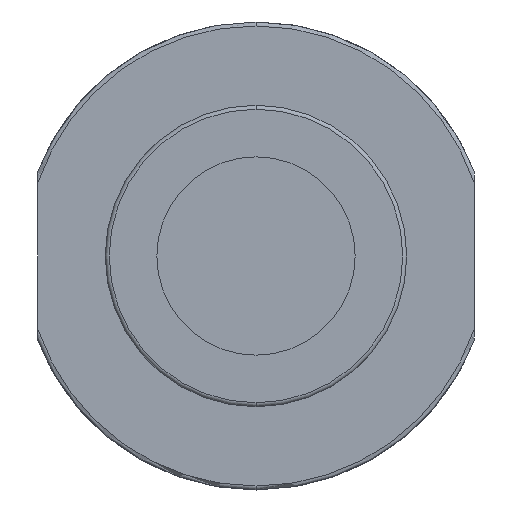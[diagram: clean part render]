
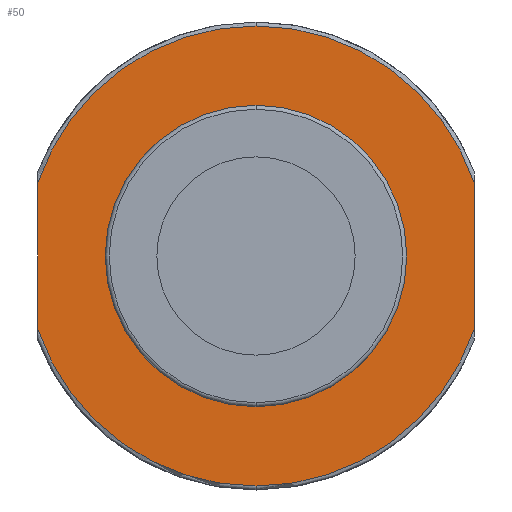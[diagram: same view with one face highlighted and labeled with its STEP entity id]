
A CAD part, left-side view. The second image highlights one B-rep face of the part: STEP entity #50.
In plain terms, the highlighted planar face has unit normal (-1, 0, 0).
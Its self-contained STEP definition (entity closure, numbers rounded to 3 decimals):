
#27 = DIRECTION ( 'NONE',  ( 0., 1., 0. ) ) ;
#50 = ADVANCED_FACE ( 'NONE', ( #857, #1179 ), #1817, .T. ) ;
#110 = CIRCLE ( 'NONE', #1399, 29. ) ;
#111 = AXIS2_PLACEMENT_3D ( 'NONE', #1345, #1472, #1102 ) ;
#137 = DIRECTION ( 'NONE',  ( 0., 0., -1. ) ) ;
#268 = DIRECTION ( 'NONE',  ( 0., 1., 0. ) ) ;
#277 = AXIS2_PLACEMENT_3D ( 'NONE', #972, #400, #541 ) ;
#348 = DIRECTION ( 'NONE',  ( 0., 1., 0. ) ) ;
#357 = ORIENTED_EDGE ( 'NONE', *, *, #1704, .T. ) ;
#384 = CARTESIAN_POINT ( 'NONE',  ( 40., 27.5, 0. ) ) ;
#387 = CARTESIAN_POINT ( 'NONE',  ( 40., 27.5, -9.206 ) ) ;
#396 = CARTESIAN_POINT ( 'NONE',  ( 40., -19., 0. ) ) ;
#400 = DIRECTION ( 'NONE',  ( -1., 0., 0. ) ) ;
#407 = DIRECTION ( 'NONE',  ( 1., 0., 0. ) ) ;
#438 = CARTESIAN_POINT ( 'NONE',  ( 40., -27.5, -9.206 ) ) ;
#449 = VERTEX_POINT ( 'NONE', #1657 ) ;
#462 = AXIS2_PLACEMENT_3D ( 'NONE', #833, #990, #731 ) ;
#478 = ORIENTED_EDGE ( 'NONE', *, *, #775, .F. ) ;
#503 = AXIS2_PLACEMENT_3D ( 'NONE', #1566, #1570, #27 ) ;
#541 = DIRECTION ( 'NONE',  ( 0., 0., 1. ) ) ;
#555 = ORIENTED_EDGE ( 'NONE', *, *, #590, .F. ) ;
#574 = EDGE_CURVE ( 'NONE', #605, #1811, #917, .T. ) ;
#590 = EDGE_CURVE ( 'NONE', #750, #1227, #801, .T. ) ;
#604 = EDGE_CURVE ( 'NONE', #750, #1811, #1271, .T. ) ;
#605 = VERTEX_POINT ( 'NONE', #1685 ) ;
#638 = CARTESIAN_POINT ( 'NONE',  ( 40., -27.5, 0. ) ) ;
#695 = VERTEX_POINT ( 'NONE', #438 ) ;
#731 = DIRECTION ( 'NONE',  ( 0., 1., 0. ) ) ;
#750 = VERTEX_POINT ( 'NONE', #1622 ) ;
#765 = AXIS2_PLACEMENT_3D ( 'NONE', #1666, #960, #268 ) ;
#775 = EDGE_CURVE ( 'NONE', #695, #605, #1354, .T. ) ;
#787 = CARTESIAN_POINT ( 'NONE',  ( 40., 0., 0. ) ) ;
#801 = CIRCLE ( 'NONE', #1335, 29. ) ;
#827 = CIRCLE ( 'NONE', #462, 19. ) ;
#833 = CARTESIAN_POINT ( 'NONE',  ( 40., 0., 0. ) ) ;
#857 = FACE_OUTER_BOUND ( 'NONE', #1206, .T. ) ;
#874 = VERTEX_POINT ( 'NONE', #1682 ) ;
#917 = CIRCLE ( 'NONE', #765, 29. ) ;
#923 = ORIENTED_EDGE ( 'NONE', *, *, #604, .T. ) ;
#960 = DIRECTION ( 'NONE',  ( 1., 0., 0. ) ) ;
#969 = DIRECTION ( 'NONE',  ( 0., 1., 0. ) ) ;
#972 = CARTESIAN_POINT ( 'NONE',  ( 40., 24., 0. ) ) ;
#979 = EDGE_CURVE ( 'NONE', #1770, #874, #827, .T. ) ;
#990 = DIRECTION ( 'NONE',  ( 1., 0., 0. ) ) ;
#1021 = EDGE_CURVE ( 'NONE', #874, #1770, #1130, .T. ) ;
#1102 = DIRECTION ( 'NONE',  ( 0., 1., 0. ) ) ;
#1130 = CIRCLE ( 'NONE', #503, 19. ) ;
#1179 = FACE_BOUND ( 'NONE', #1416, .T. ) ;
#1200 = DIRECTION ( 'NONE',  ( 0., 0., 1. ) ) ;
#1205 = CARTESIAN_POINT ( 'NONE',  ( 40., 0., 29. ) ) ;
#1206 = EDGE_LOOP ( 'NONE', ( #357, #1285, #555, #923, #1823, #478 ) ) ;
#1216 = EDGE_CURVE ( 'NONE', #1227, #449, #110, .T. ) ;
#1227 = VERTEX_POINT ( 'NONE', #1205 ) ;
#1266 = ORIENTED_EDGE ( 'NONE', *, *, #979, .T. ) ;
#1271 = LINE ( 'NONE', #384, #1690 ) ;
#1285 = ORIENTED_EDGE ( 'NONE', *, *, #1216, .F. ) ;
#1330 = DIRECTION ( 'NONE',  ( 1., 0., 0. ) ) ;
#1335 = AXIS2_PLACEMENT_3D ( 'NONE', #1821, #407, #969 ) ;
#1339 = ORIENTED_EDGE ( 'NONE', *, *, #1021, .T. ) ;
#1345 = CARTESIAN_POINT ( 'NONE',  ( 40., 0., 0. ) ) ;
#1354 = CIRCLE ( 'NONE', #111, 29. ) ;
#1399 = AXIS2_PLACEMENT_3D ( 'NONE', #787, #1330, #348 ) ;
#1416 = EDGE_LOOP ( 'NONE', ( #1339, #1266 ) ) ;
#1421 = LINE ( 'NONE', #638, #1594 ) ;
#1472 = DIRECTION ( 'NONE',  ( 1., 0., 0. ) ) ;
#1566 = CARTESIAN_POINT ( 'NONE',  ( 40., 0., 0. ) ) ;
#1570 = DIRECTION ( 'NONE',  ( 1., 0., 0. ) ) ;
#1594 = VECTOR ( 'NONE', #1200, 1000. ) ;
#1622 = CARTESIAN_POINT ( 'NONE',  ( 40., 27.5, 9.206 ) ) ;
#1657 = CARTESIAN_POINT ( 'NONE',  ( 40., -27.5, 9.206 ) ) ;
#1666 = CARTESIAN_POINT ( 'NONE',  ( 40., 0., 0. ) ) ;
#1682 = CARTESIAN_POINT ( 'NONE',  ( 40., 19., 0. ) ) ;
#1685 = CARTESIAN_POINT ( 'NONE',  ( 40., 0., -29. ) ) ;
#1690 = VECTOR ( 'NONE', #137, 1000. ) ;
#1704 = EDGE_CURVE ( 'NONE', #695, #449, #1421, .T. ) ;
#1770 = VERTEX_POINT ( 'NONE', #396 ) ;
#1811 = VERTEX_POINT ( 'NONE', #387 ) ;
#1817 = PLANE ( 'NONE',  #277 ) ;
#1821 = CARTESIAN_POINT ( 'NONE',  ( 40., 0., 0. ) ) ;
#1823 = ORIENTED_EDGE ( 'NONE', *, *, #574, .F. ) ;
